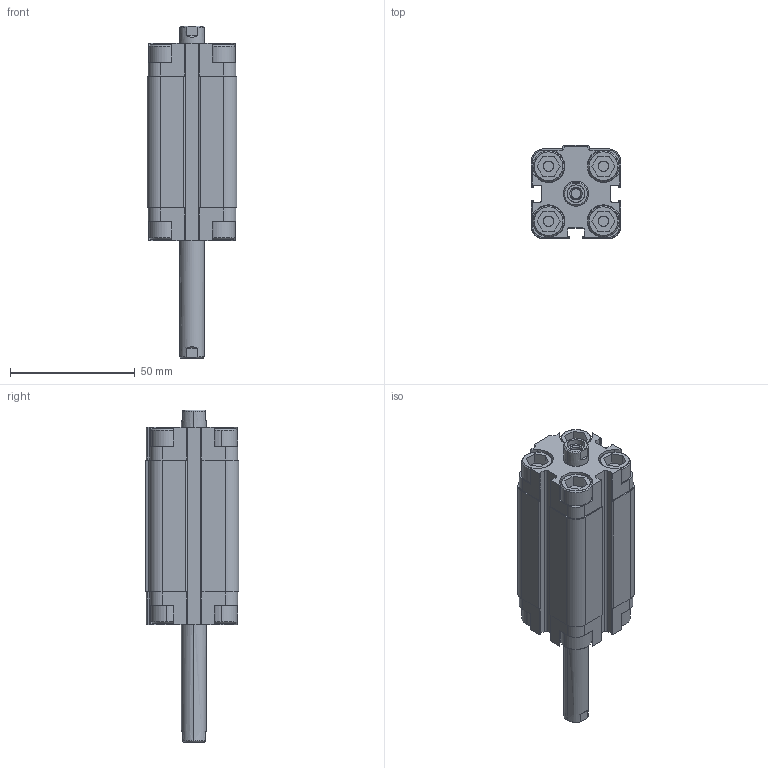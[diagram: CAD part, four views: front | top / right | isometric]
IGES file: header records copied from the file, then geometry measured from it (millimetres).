
Start section: SolidWorks IGES file using analytic representation for surfaces
Global section: file name: K:\Disegni Esecutivi\Cilindri\2_DISEGNI_cilindri_in_produzione\5_Cilindri Compatti\complessivicompatti\QJ\QJ020\QJ020_PARTE\QJ020_IGES\J020_IGES\QJ0200040A.igs; native system: SolidWorks 2011; preprocessor: SolidWorks 2011; author: Cad01; date: 110922.095645; units: millimetre
Bounding box: 36 x 37.5 x 133 mm (x, y, z)
Surface area: 22621.3 mm2 (no closed solid volume)
Topology: 0 solids, 0 shells, 334 faces, 3936 edges, 3936 vertices
Faces by surface type: bspline 194, revolution 140
